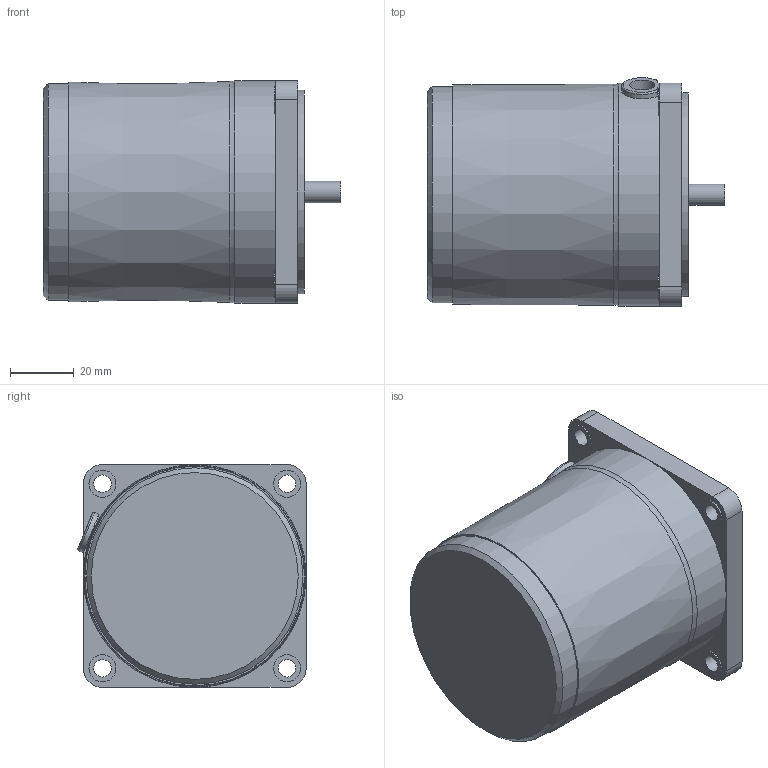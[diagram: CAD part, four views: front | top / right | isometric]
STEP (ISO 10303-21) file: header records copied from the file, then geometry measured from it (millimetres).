
FILE_DESCRIPTION((''),'2;1');
FILE_NAME('D:\김성묵\업무폴더\개발 파일\프로젝트 개발 AB등급\AC표준형 개발자료\90각 이하 표준형 개발\도면작성 자료\3D 도면\홈페이지용 3D 파일\15W MOTOR\S7I15G.stp','2015-03-25T10:57:05',('smkim'),(''),'Autodesk Inventor 2012','Autodesk Inventor 2012','');
FILE_SCHEMA(('AUTOMOTIVE_DESIGN { 1 0 10303 214 1 1 1 1 }'));
Length unit declared in the file: millimetre
Products named in the file (4): S7I15G; S7I15GㅁCE; 6_CORD BUSH; S7_HOUSING A
Assembly tree (3 placements, depth 2):
  S7I15G
    S7I15GㅁCE
    6_CORD BUSH
    S7_HOUSING A
Bounding box: 93.4 x 71.72 x 70 mm (x, y, z)
Volume: 305251.8 mm3; surface area: 37916.7 mm2
Topology: 3 solids, 3 shells, 82 faces, 199 edges, 131 vertices
Faces by surface type: plane 47, cylinder 29, cone 4, torus 2
Full cylindrical faces by diameter (mm): 5.5 x4, 6.7 x1, 8 x1, 8.5 x4, 10 x1, 28 x1, 64 x1, 68 x1, 70 x1
Entity records: 2479 total; most frequent: CARTESIAN_POINT 455, DIRECTION 424, ORIENTED_EDGE 354, EDGE_CURVE 177, AXIS2_PLACEMENT_3D 166, VERTEX_POINT 128, EDGE_LOOP 123, VECTOR 92
